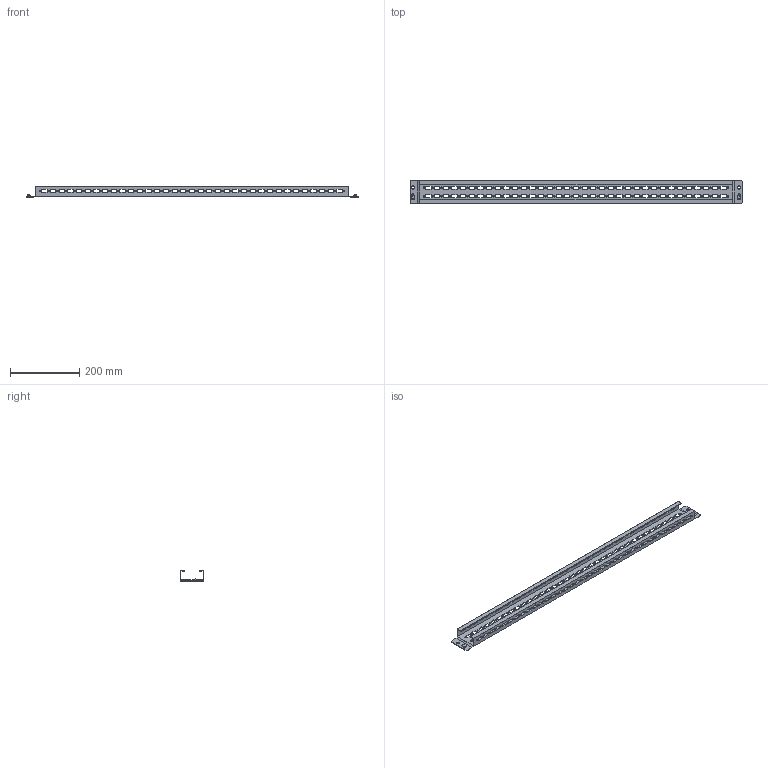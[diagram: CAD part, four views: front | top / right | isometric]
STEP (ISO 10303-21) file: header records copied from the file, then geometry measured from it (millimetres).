
FILE_DESCRIPTION(/* description */ ('CAx-IF Rec.Pracs.---Representation and Presentation of Product Manufacturing Information (PMI)---4.0---2014-10-13','CAx-IF Rec.Pracs.---3D Tessellated Geometry---0.4---2014-09-14','2;1'),/* implementation_level */ '2;1');
FILE_NAME(/* name */ 'DTKA70',/* time_stamp */ '2021-04-16T17:19:31+02:00',/* author */ ('Rafael Marcelo Anitrano'),/* organization */ ('Quadritalia'),/* preprocessor_version */ 'ST-DEVELOPER v16.7',/* originating_system */ 'Solid Edge',/* authorisation */ 'Unknown');
FILE_SCHEMA (('AP242_MANAGED_MODEL_BASED_3D_ENGINEERING_MIM_LF { 1 0 10303 442 1 1 4 }'));
Length unit declared in the file: millimetre
Products named in the file (1): DTKA70
Bounding box: 956 x 68.5 x 31 mm (x, y, z)
Volume: 221790.2 mm3; surface area: 243838.4 mm2
Topology: 1 solids, 1 shells, 786 faces, 2472 edges, 1684 vertices
Faces by surface type: plane 638, cylinder 148
Full cylindrical faces by diameter (mm): 4.25 x144
Entity records: 26754 total; most frequent: CARTESIAN_POINT 4583, ORIENTED_EDGE 4440, DIRECTION 4090, EDGE_CURVE 2220, LINE 1924, VECTOR 1924, VERTEX_POINT 1576, EDGE_LOOP 1510
